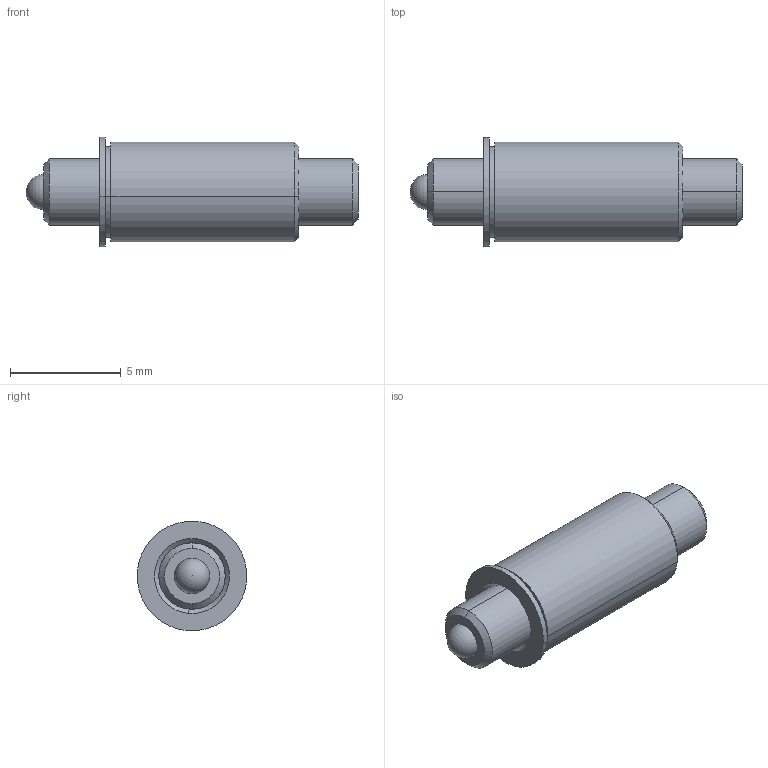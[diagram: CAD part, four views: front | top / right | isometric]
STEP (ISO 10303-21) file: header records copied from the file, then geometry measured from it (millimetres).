
FILE_DESCRIPTION (( 'STEP AP214' ), '1' );
FILE_NAME ('TSBM3-25-15_9.STEP', '2013-03-14T20:11:03', ( 'workpc' ), ( 'Microsoft' ), 'SwSTEP 2.0', 'SolidWorks 2013', '' );
FILE_SCHEMA (( 'AUTOMOTIVE_DESIGN' ));
Length unit declared in the file: inch
Products named in the file (1): TSBM3-25-15_9
Bounding box: 15 x 4.93 x 4.93 mm (x, y, z)
Surface area: 397.5 mm2 (no closed solid volume)
Topology: 0 solids, 3 shells, 34 faces, 77 edges, 49 vertices
Faces by surface type: plane 12, cone 10, cylinder 10, sphere 2
Entity records: 1385 total; most frequent: DIRECTION 176, CARTESIAN_POINT 153, ORIENTED_EDGE 136, EDGE_CURVE 72, AXIS2_PLACEMENT_3D 69, VERTEX_POINT 46, EDGE_LOOP 40, VECTOR 38
